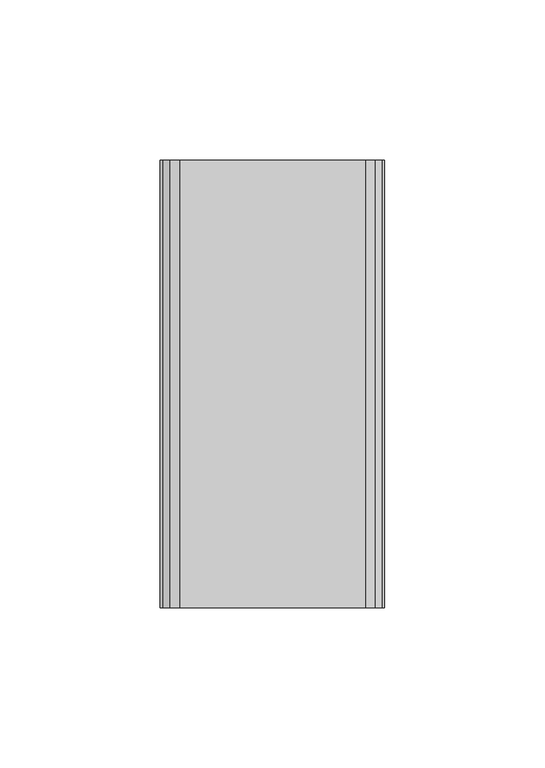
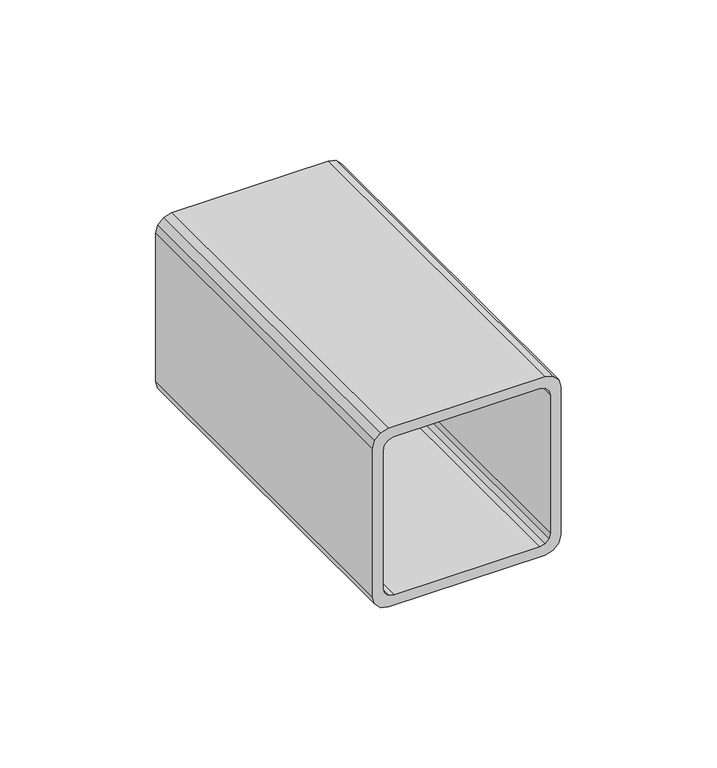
"""IFC4 building model written with IfcOpenShell, lengths in millimetres: beam geometry,  169104 :  169104."""

from ifc_helpers import new_model, si_unit, frame, origin, place, context, project, spatial, polyline, outline, extrude, source, transform, mapped, element, save


def beam_e8c89f98(model_context):
    return source(origin(), model_context, "Body", "SweptSolid", [
        extrude(outline(polyline([(90.9478709, 15154.9999999), (87.9478709, 15155.8038474), (85.7517184, 15157.9999999), (84.9478709, 15160.9999999), (84.9478709, 15218.9999999), (85.7517184, 15221.9999999), (87.9478709, 15224.1961523), (90.9478709, 15224.9999999), (148.9478709, 15224.9999999), (151.9478709, 15224.1961523), (154.1440233, 15221.9999999), (154.9478709, 15218.9999999), (154.9478709, 15160.9999999), (154.1440233, 15157.9999999), (151.9478709, 15155.8038474), (148.9478709, 15154.9999999), (90.9478709, 15154.9999999)]), holes=[polyline([(146.9478709, 15158.9999999), (148.9478709, 15159.5358983), (150.4119725, 15160.9999999), (150.9478709, 15162.9999999), (150.9478709, 15216.9999999), (150.4119725, 15218.9999999), (148.9478709, 15220.4641015), (146.9478709, 15220.9999999), (92.9478709, 15220.9999999), (90.9478709, 15220.4641015), (89.4837692, 15218.9999999), (88.9478709, 15216.9999999), (88.9478709, 15162.9999999), (89.4837692, 15160.9999999), (90.9478709, 15159.5358983), (92.9478709, 15158.9999999), (146.9478709, 15158.9999999)])]), frame((0.0, -114.45, 0.0), z_axis=(0.0, 1.0, 0.0), x_axis=(0.0, 0.0, 1.0)), (0.0, 0.0, 1.0), 139.45),
    ])


if __name__ == "__main__":
    model = new_model("IFC4")
    model_context = context("Model", 3, world=origin())
    ifc_project = project(units=[si_unit("LENGTHUNIT", "METRE", prefix="MILLI")], contexts=[model_context])
    site = spatial("IfcSite", under=ifc_project)
    building = spatial("IfcBuilding", under=site)
    placement = place(None, origin())
    beam_shape = beam_e8c89f98(model_context)
    element("IfcBeam", 1, ObjectType=" 169104 :  169104", at=placement, inside=building, context=model_context, shape_type="MappedRepresentation", body=[
        mapped(beam_shape, transform((0.0, 0.0, 0.0), x_axis=(1.0, 0.0, 0.0), y_axis=(0.0, 1.0, 0.0), z_axis=(0.0, 0.0, 1.0))),
    ])
    save(model, "model.ifc")
